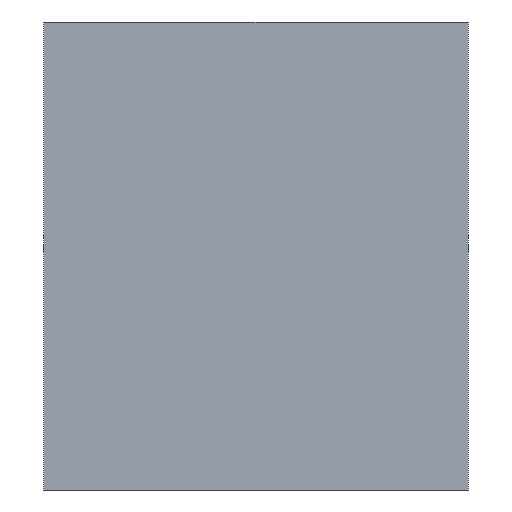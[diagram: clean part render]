
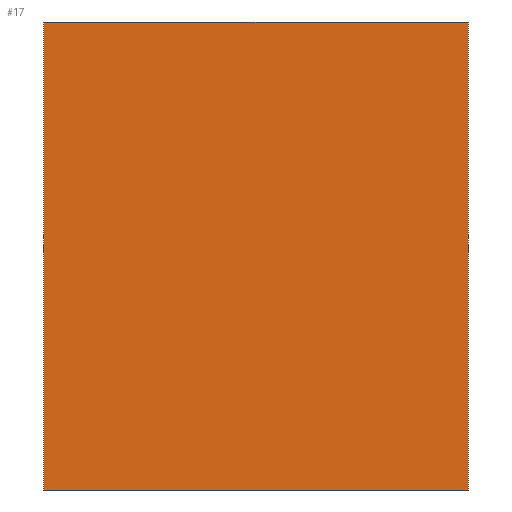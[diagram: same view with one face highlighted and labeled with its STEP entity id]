
A CAD part, front view. The second image highlights one B-rep face of the part: STEP entity #17.
In plain terms, the highlighted planar face has unit normal (0, -1, 0).
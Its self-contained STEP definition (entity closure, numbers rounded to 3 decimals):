
#17 = ADVANCED_FACE('',(#18),#32,.F.);
#18 = FACE_BOUND('',#19,.F.);
#19 = EDGE_LOOP('',(#20,#55,#81,#109));
#20 = ORIENTED_EDGE('',*,*,#21,.F.);
#21 = EDGE_CURVE('',#22,#24,#26,.T.);
#22 = VERTEX_POINT('',#23);
#23 = CARTESIAN_POINT('',(12.8,0.,0.));
#24 = VERTEX_POINT('',#25);
#25 = CARTESIAN_POINT('',(67.2,0.,0.));
#26 = SURFACE_CURVE('',#27,(#31,#43),.PCURVE_S1.);
#27 = LINE('',#28,#29);
#28 = CARTESIAN_POINT('',(0.,0.,0.));
#29 = VECTOR('',#30,1.);
#30 = DIRECTION('',(1.,0.,0.));
#31 = PCURVE('',#32,#37);
#32 = PLANE('',#33);
#33 = AXIS2_PLACEMENT_3D('',#34,#35,#36);
#34 = CARTESIAN_POINT('',(0.,0.,0.));
#35 = DIRECTION('',(0.,1.,0.));
#36 = DIRECTION('',(1.,0.,0.));
#37 = DEFINITIONAL_REPRESENTATION('',(#38),#42);
#38 = LINE('',#39,#40);
#39 = CARTESIAN_POINT('',(0.,0.));
#40 = VECTOR('',#41,1.);
#41 = DIRECTION('',(1.,0.));
#42 = ( GEOMETRIC_REPRESENTATION_CONTEXT(2) 
PARAMETRIC_REPRESENTATION_CONTEXT() REPRESENTATION_CONTEXT('2D SPACE',''
  ) );
#43 = PCURVE('',#44,#49);
#44 = PLANE('',#45);
#45 = AXIS2_PLACEMENT_3D('',#46,#47,#48);
#46 = CARTESIAN_POINT('',(40.,16.973,0.));
#47 = DIRECTION('',(0.,0.,1.));
#48 = DIRECTION('',(1.,0.,0.));
#49 = DEFINITIONAL_REPRESENTATION('',(#50),#54);
#50 = LINE('',#51,#52);
#51 = CARTESIAN_POINT('',(-40.,-16.973));
#52 = VECTOR('',#53,1.);
#53 = DIRECTION('',(1.,0.));
#54 = ( GEOMETRIC_REPRESENTATION_CONTEXT(2) 
PARAMETRIC_REPRESENTATION_CONTEXT() REPRESENTATION_CONTEXT('2D SPACE',''
  ) );
#55 = ORIENTED_EDGE('',*,*,#56,.F.);
#56 = EDGE_CURVE('',#57,#22,#59,.T.);
#57 = VERTEX_POINT('',#58);
#58 = CARTESIAN_POINT('',(12.8,0.,60.));
#59 = SURFACE_CURVE('',#60,(#64,#70),.PCURVE_S1.);
#60 = LINE('',#61,#62);
#61 = CARTESIAN_POINT('',(12.8,0.,30.));
#62 = VECTOR('',#63,1.);
#63 = DIRECTION('',(0.,0.,-1.));
#64 = PCURVE('',#32,#65);
#65 = DEFINITIONAL_REPRESENTATION('',(#66),#69);
#66 = B_SPLINE_CURVE_WITH_KNOTS('',1,(#67,#68),.UNSPECIFIED.,.F.,.F.,(2,
    2),(-30.,30.),.PIECEWISE_BEZIER_KNOTS.);
#67 = CARTESIAN_POINT('',(12.8,-60.));
#68 = CARTESIAN_POINT('',(12.8,0.));
#69 = ( GEOMETRIC_REPRESENTATION_CONTEXT(2) 
PARAMETRIC_REPRESENTATION_CONTEXT() REPRESENTATION_CONTEXT('2D SPACE',''
  ) );
#70 = PCURVE('',#71,#76);
#71 = PLANE('',#72);
#72 = AXIS2_PLACEMENT_3D('',#73,#74,#75);
#73 = CARTESIAN_POINT('',(12.8,-10.,60.));
#74 = DIRECTION('',(1.,0.,0.));
#75 = DIRECTION('',(-0.,1.,0.));
#76 = DEFINITIONAL_REPRESENTATION('',(#77),#80);
#77 = B_SPLINE_CURVE_WITH_KNOTS('',1,(#78,#79),.UNSPECIFIED.,.F.,.F.,(2,
    2),(-30.,30.),.PIECEWISE_BEZIER_KNOTS.);
#78 = CARTESIAN_POINT('',(10.,0.));
#79 = CARTESIAN_POINT('',(10.,-60.));
#80 = ( GEOMETRIC_REPRESENTATION_CONTEXT(2) 
PARAMETRIC_REPRESENTATION_CONTEXT() REPRESENTATION_CONTEXT('2D SPACE',''
  ) );
#81 = ORIENTED_EDGE('',*,*,#82,.T.);
#82 = EDGE_CURVE('',#57,#83,#85,.T.);
#83 = VERTEX_POINT('',#84);
#84 = CARTESIAN_POINT('',(67.2,0.,60.));
#85 = SURFACE_CURVE('',#86,(#90,#97),.PCURVE_S1.);
#86 = LINE('',#87,#88);
#87 = CARTESIAN_POINT('',(0.,0.,60.));
#88 = VECTOR('',#89,1.);
#89 = DIRECTION('',(1.,0.,0.));
#90 = PCURVE('',#32,#91);
#91 = DEFINITIONAL_REPRESENTATION('',(#92),#96);
#92 = LINE('',#93,#94);
#93 = CARTESIAN_POINT('',(0.,-60.));
#94 = VECTOR('',#95,1.);
#95 = DIRECTION('',(1.,0.));
#96 = ( GEOMETRIC_REPRESENTATION_CONTEXT(2) 
PARAMETRIC_REPRESENTATION_CONTEXT() REPRESENTATION_CONTEXT('2D SPACE',''
  ) );
#97 = PCURVE('',#98,#103);
#98 = PLANE('',#99);
#99 = AXIS2_PLACEMENT_3D('',#100,#101,#102);
#100 = CARTESIAN_POINT('',(40.,16.973,60.));
#101 = DIRECTION('',(0.,0.,1.));
#102 = DIRECTION('',(1.,0.,0.));
#103 = DEFINITIONAL_REPRESENTATION('',(#104),#108);
#104 = LINE('',#105,#106);
#105 = CARTESIAN_POINT('',(-40.,-16.973));
#106 = VECTOR('',#107,1.);
#107 = DIRECTION('',(1.,0.));
#108 = ( GEOMETRIC_REPRESENTATION_CONTEXT(2) 
PARAMETRIC_REPRESENTATION_CONTEXT() REPRESENTATION_CONTEXT('2D SPACE',''
  ) );
#109 = ORIENTED_EDGE('',*,*,#110,.T.);
#110 = EDGE_CURVE('',#83,#24,#111,.T.);
#111 = SURFACE_CURVE('',#112,(#116,#122),.PCURVE_S1.);
#112 = LINE('',#113,#114);
#113 = CARTESIAN_POINT('',(67.2,0.,30.));
#114 = VECTOR('',#115,1.);
#115 = DIRECTION('',(0.,0.,-1.));
#116 = PCURVE('',#32,#117);
#117 = DEFINITIONAL_REPRESENTATION('',(#118),#121);
#118 = B_SPLINE_CURVE_WITH_KNOTS('',1,(#119,#120),.UNSPECIFIED.,.F.,.F.,
  (2,2),(-30.,30.),.PIECEWISE_BEZIER_KNOTS.);
#119 = CARTESIAN_POINT('',(67.2,-60.));
#120 = CARTESIAN_POINT('',(67.2,0.));
#121 = ( GEOMETRIC_REPRESENTATION_CONTEXT(2) 
PARAMETRIC_REPRESENTATION_CONTEXT() REPRESENTATION_CONTEXT('2D SPACE',''
  ) );
#122 = PCURVE('',#123,#128);
#123 = PLANE('',#124);
#124 = AXIS2_PLACEMENT_3D('',#125,#126,#127);
#125 = CARTESIAN_POINT('',(67.2,-6.676,60.));
#126 = DIRECTION('',(1.,0.,0.));
#127 = DIRECTION('',(-0.,1.,0.));
#128 = DEFINITIONAL_REPRESENTATION('',(#129),#132);
#129 = B_SPLINE_CURVE_WITH_KNOTS('',1,(#130,#131),.UNSPECIFIED.,.F.,.F.,
  (2,2),(-30.,30.),.PIECEWISE_BEZIER_KNOTS.);
#130 = CARTESIAN_POINT('',(6.676,0.));
#131 = CARTESIAN_POINT('',(6.676,-60.));
#132 = ( GEOMETRIC_REPRESENTATION_CONTEXT(2) 
PARAMETRIC_REPRESENTATION_CONTEXT() REPRESENTATION_CONTEXT('2D SPACE',''
  ) );
